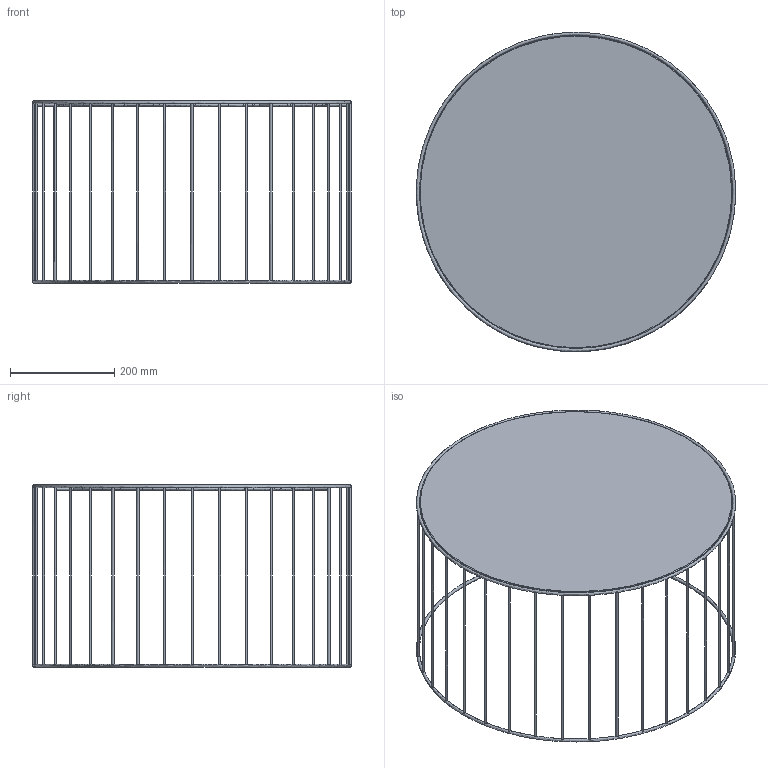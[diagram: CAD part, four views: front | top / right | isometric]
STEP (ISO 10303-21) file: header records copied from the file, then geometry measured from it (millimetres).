
FILE_DESCRIPTION(/* description */ (''),/* implementation_level */ '2;1');
FILE_NAME(/* name */ 'T8RV8I~N',/* time_stamp */ '2024-01-18T17:31:10+01:00',/* author */ (''),/* organization */ (''),/* preprocessor_version */ 'ST-DEVELOPER v16.5',/* originating_system */ '',/* authorisation */ '');
FILE_SCHEMA (('AUTOMOTIVE_DESIGN'));
Length unit declared in the file: millimetre
Products named in the file (1): Document
Bounding box: 612.89 x 612.73 x 350 mm (x, y, z)
Volume: 1988104.4 mm3; surface area: 824751.5 mm2
Topology: 46 solids, 46 shells, 134 faces, 139 edges, 91 vertices
Faces by surface type: bspline 134
Entity records: 7695 total; most frequent: CARTESIAN_POINT 5644, ORIENTED_EDGE 278, PCURVE 278, DEFINITIONAL_REPRESENTATION 278, B_SPLINE_CURVE_WITH_KNOTS 200, SURFACE_CURVE 139, EDGE_CURVE 139, ADVANCED_FACE 134
